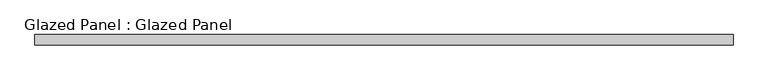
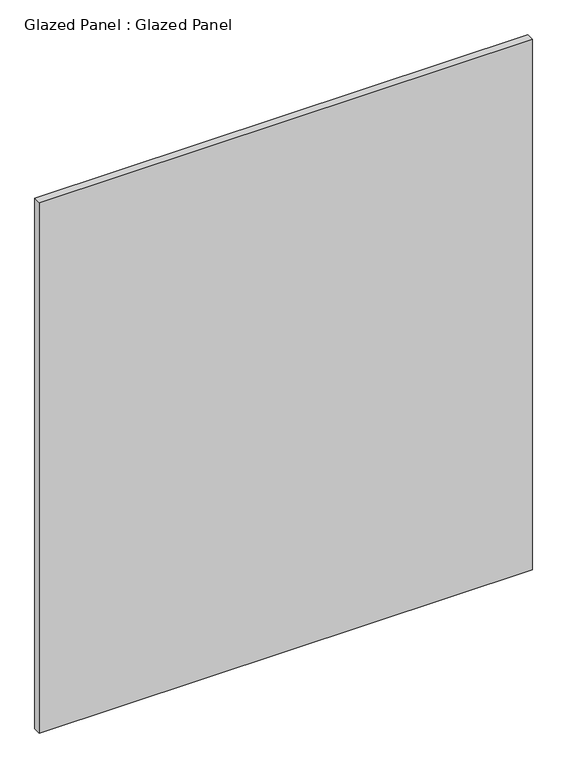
"""IFC4 building model written with IfcOpenShell, lengths in millimetres: plate geometry, Glazed Panel : Glazed Panel."""

from ifc_helpers import new_model, si_unit, origin, origin_with_axes, place, context, project, spatial, polyline, outline, extrude, source, transform, mapped, element, save


def glazed_panel_glazed_panel_7e3e46a5(model_context):
    return source(origin(), model_context, "Body", "SweptSolid", [
        extrude(outline(polyline([(851.7623557, 38.1), (-851.7623557, 38.1), (-851.7623557, 63.5), (851.7623557, 63.5), (851.7623557, 38.1)])), origin_with_axes(), (0.0, 0.0, 1.0), 1936.75),
    ])


if __name__ == "__main__":
    model = new_model("IFC4")
    model_context = context("Model", 3, world=origin())
    ifc_project = project(units=[si_unit("LENGTHUNIT", "METRE", prefix="MILLI")], contexts=[model_context])
    site = spatial("IfcSite", under=ifc_project)
    building = spatial("IfcBuilding", under=site)
    placement = place(None, origin())
    glazed_panel_glazed_panel_shape = glazed_panel_glazed_panel_7e3e46a5(model_context)
    element("IfcPlate", 1, ObjectType="Glazed Panel : Glazed Panel", at=placement, inside=building, context=model_context, shape_type="MappedRepresentation", body=[
        mapped(glazed_panel_glazed_panel_shape, transform((0.0, 0.0, 0.0), x_axis=(1.0, 0.0, 0.0), y_axis=(0.0, 1.0, 0.0), z_axis=(0.0, 0.0, 1.0))),
    ])
    save(model, "model.ifc")
